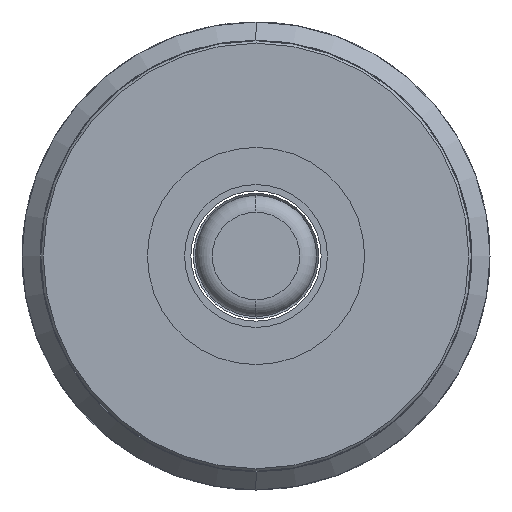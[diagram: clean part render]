
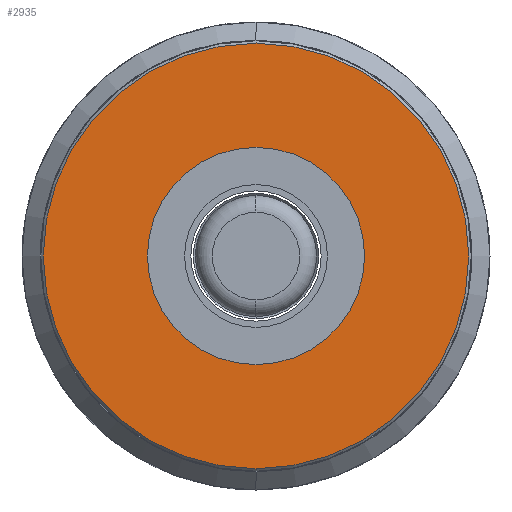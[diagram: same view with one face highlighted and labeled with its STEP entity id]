
A CAD part, left-side view. The second image highlights one B-rep face of the part: STEP entity #2935.
In plain terms, the highlighted planar face has unit normal (-1, 0, 0).
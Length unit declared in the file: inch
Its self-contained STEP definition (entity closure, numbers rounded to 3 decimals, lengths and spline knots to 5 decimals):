
#2758 = EDGE_CURVE ( 'NONE', #2759, #2760, #11557, .T. ) ;
#2759 = VERTEX_POINT ( 'NONE', #11552 ) ;
#2760 = VERTEX_POINT ( 'NONE', #11551 ) ;
#2862 = EDGE_LOOP ( 'NONE', ( #2863, #2864 ) ) ;
#2863 = ORIENTED_EDGE ( 'NONE', *, *, #2758, .F. ) ;
#2864 = ORIENTED_EDGE ( 'NONE', *, *, #2865, .F. ) ;
#2865 = EDGE_CURVE ( 'NONE', #2760, #2759, #11730, .T. ) ;
#2866 = EDGE_LOOP ( 'NONE', ( #2867, #2915 ) ) ;
#2867 = ORIENTED_EDGE ( 'NONE', *, *, #2931, .T. ) ;
#2869 = EDGE_CURVE ( 'NONE', #2870, #2871, #11725, .T. ) ;
#2870 = VERTEX_POINT ( 'NONE', #11721 ) ;
#2871 = VERTEX_POINT ( 'NONE', #11720 ) ;
#2915 = ORIENTED_EDGE ( 'NONE', *, *, #2869, .T. ) ;
#2931 = EDGE_CURVE ( 'NONE', #2871, #2870, #11870, .T. ) ;
#2935 = ADVANCED_FACE ( 'NONE', ( #11856, #11855 ), #11854, .F. ) ;
#11551 = CARTESIAN_POINT ( 'NONE',  ( -1.945, 0., 0.441 ) ) ;
#11552 = CARTESIAN_POINT ( 'NONE',  ( -1.945, 0., -0.441 ) ) ;
#11553 = DIRECTION ( 'NONE',  ( 0., 0., -1. ) ) ;
#11554 = DIRECTION ( 'NONE',  ( 1., 0., 0. ) ) ;
#11555 = CARTESIAN_POINT ( 'NONE',  ( -1.945, 0., 0. ) ) ;
#11556 = AXIS2_PLACEMENT_3D ( 'NONE', #11555, #11554, #11553 ) ;
#11557 = CIRCLE ( 'NONE', #11556, 0.441 ) ;
#11720 = CARTESIAN_POINT ( 'NONE',  ( -1.945, 0., -0.225 ) ) ;
#11721 = CARTESIAN_POINT ( 'NONE',  ( -1.945, 0., 0.225 ) ) ;
#11722 = DIRECTION ( 'NONE',  ( 0., 0., -1. ) ) ;
#11723 = DIRECTION ( 'NONE',  ( 1., 0., 0. ) ) ;
#11724 = AXIS2_PLACEMENT_3D ( 'NONE', #11731, #11723, #11722 ) ;
#11725 = CIRCLE ( 'NONE', #11724, 0.225 ) ;
#11726 = DIRECTION ( 'NONE',  ( 0., 0., -1. ) ) ;
#11727 = DIRECTION ( 'NONE',  ( 1., 0., 0. ) ) ;
#11728 = CARTESIAN_POINT ( 'NONE',  ( -1.945, 0., 0. ) ) ;
#11729 = AXIS2_PLACEMENT_3D ( 'NONE', #11728, #11727, #11726 ) ;
#11730 = CIRCLE ( 'NONE', #11729, 0.441 ) ;
#11731 = CARTESIAN_POINT ( 'NONE',  ( -1.945, 0., 0. ) ) ;
#11850 = DIRECTION ( 'NONE',  ( 0., 0., -1. ) ) ;
#11851 = DIRECTION ( 'NONE',  ( 1., 0., 0. ) ) ;
#11852 = CARTESIAN_POINT ( 'NONE',  ( -1.945, 0., 0. ) ) ;
#11853 = AXIS2_PLACEMENT_3D ( 'NONE', #11852, #11851, #11850 ) ;
#11854 = PLANE ( 'NONE',  #11853 ) ;
#11855 = FACE_BOUND ( 'NONE', #2866, .T. ) ;
#11856 = FACE_OUTER_BOUND ( 'NONE', #2862, .T. ) ;
#11862 = DIRECTION ( 'NONE',  ( 0., 0., -1. ) ) ;
#11863 = DIRECTION ( 'NONE',  ( 1., 0., 0. ) ) ;
#11864 = CARTESIAN_POINT ( 'NONE',  ( -1.945, 0., 0. ) ) ;
#11865 = AXIS2_PLACEMENT_3D ( 'NONE', #11864, #11863, #11862 ) ;
#11870 = CIRCLE ( 'NONE', #11865, 0.225 ) ;
